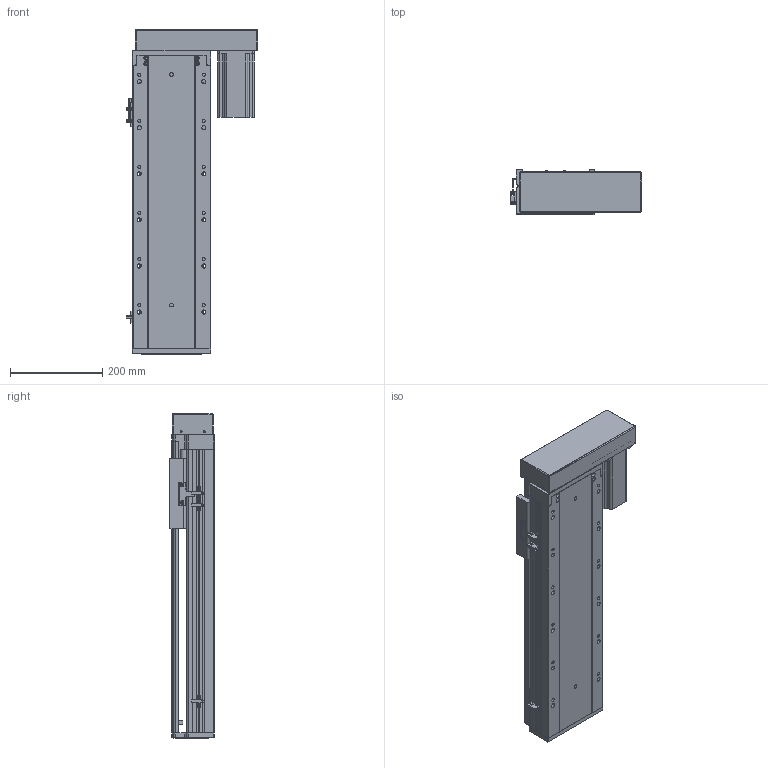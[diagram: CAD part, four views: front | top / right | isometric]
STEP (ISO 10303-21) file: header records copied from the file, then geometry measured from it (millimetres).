
FILE_DESCRIPTION (( 'STEP AP203' ), '1' );
FILE_NAME ('RY170-L2510-300-RK.SLDASM_400.step', '2021-03-12T09:19:04', ( '盈信电脑' ), ( '东莞市道滘镇水果街19号' ), 'SwSTEP 2.0', 'SolidWorks 2012', '' );
FILE_SCHEMA (( 'CONFIG_CONTROL_DESIGN' ));
Length unit declared in the file: millimetre
Products named in the file (14): 覜茼ん672; RY170外置感应片(200共用）; RY170-L2510-300-RK.SLDASM_400; RY170酘衵殏萇儂欶750W; 怢湛750W萇儂ㄗ80遺ㄘ; RY170-酘衵殏750W萇儂傷; RY170-左右折电机安装板750W; 滅袉蝶18-20; RY170转折电机端支撑座(7004); 滅袉蝶18-10; RY170-300倰第裔啣-RK_400; RY170綴裔啣; 改造-RY170铝滑块25丝杆螺母; RY170-300倰第菁釱-RK_400
Assembly tree (15 placements, depth 3):
  RY170-L2510-300-RK.SLDASM_400
    RY170-300倰第菁釱-RK_400
    改造-RY170铝滑块25丝杆螺母
    RY170-300倰第裔啣-RK_400
    RY170綴裔啣
    滅袉蝶18-20
    滅袉蝶18-10
    RY170转折电机端支撑座(7004)
    RY170-酘衵殏750W萇儂傷
      RY170-左右折电机安装板750W
      RY170酘衵殏萇儂欶750W
      怢湛750W萇儂ㄗ80遺ㄘ
    覜茼ん672  x3
    RY170外置感应片(200共用）
Bounding box: 286.2 x 97 x 705 mm (x, y, z)
Volume: 4704687.1 mm3; surface area: 1368024.7 mm2
Topology: 14 solids, 14 shells, 2083 faces, 5950 edges, 3840 vertices
Faces by surface type: plane 1084, cylinder 834, cone 146, bspline 19
Entity records: 66955 total; most frequent: CARTESIAN_POINT 15800, ORIENTED_EDGE 10700, DIRECTION 9920, EDGE_CURVE 5350, VERTEX_POINT 3520, VECTOR 3364, LINE 3364, AXIS2_PLACEMENT_3D 3278
